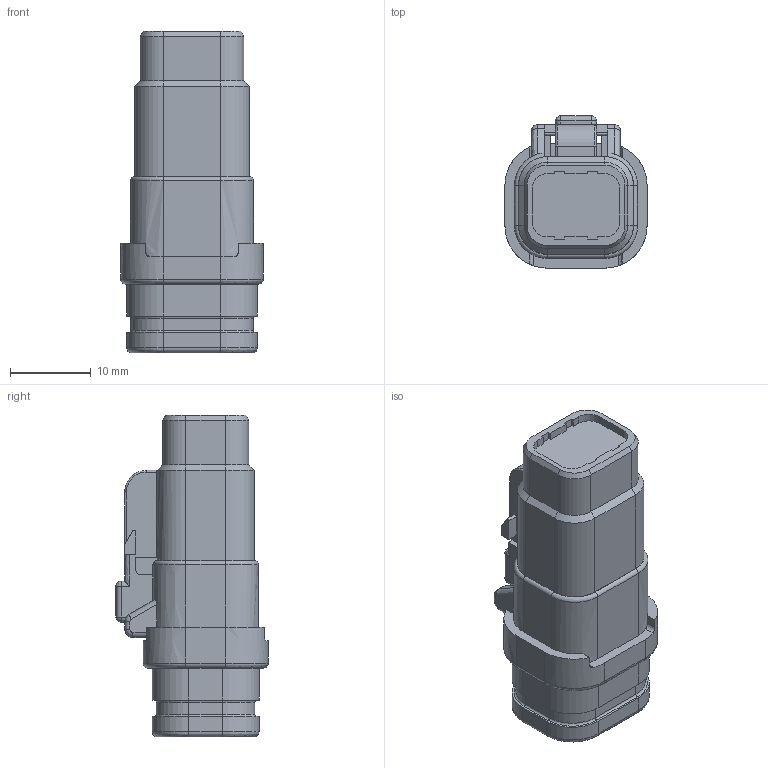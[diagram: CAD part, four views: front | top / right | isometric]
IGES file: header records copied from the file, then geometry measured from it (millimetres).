
Start section:  PTC IGES file: c-dtm06-4s-e007-99-3d.igs
Global section: file name: c-dtm06-4s-e007-99-3d.igs; native system: Pro/ENGINEER by Parametric Technology Corporation; preprocessor: 2011490; author: workeradm; organization: Unknown; units: millimetre
Bounding box: 17.63 x 18.85 x 39.88 mm (x, y, z)
Surface area: 3321.5 mm2 (no closed solid volume)
Topology: 0 solids, 0 shells, 320 faces, 1580 edges, 1580 vertices
Faces by surface type: revolution 166, bspline 154
